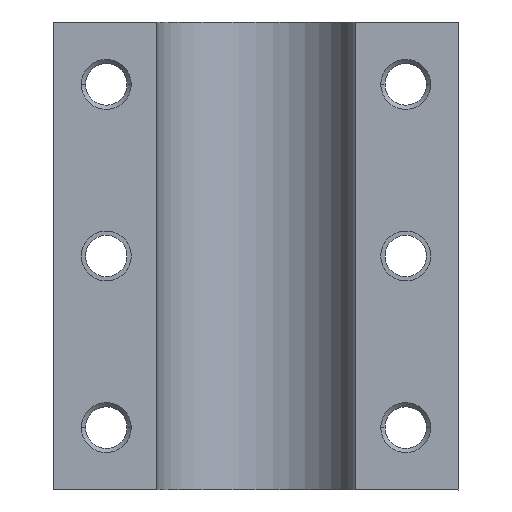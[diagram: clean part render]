
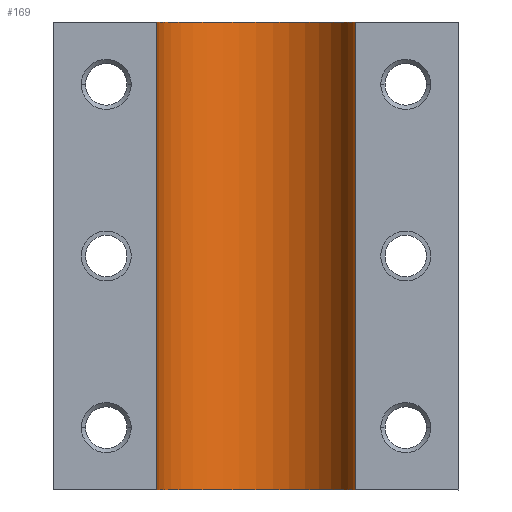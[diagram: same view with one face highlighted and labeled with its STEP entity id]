
A CAD part, left-side view. The second image highlights one B-rep face of the part: STEP entity #169.
In plain terms, the highlighted cylindrical face has radius 15.875 mm (diameter 31.75 mm), a partial arc.
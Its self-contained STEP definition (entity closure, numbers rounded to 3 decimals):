
#63=CYLINDRICAL_SURFACE('',#1556,15.875);
#169=ADVANCED_FACE('',(#231),#63,.F.);
#231=FACE_OUTER_BOUND('',#323,.F.);
#323=EDGE_LOOP('',(#440,#441,#442,#443));
#440=ORIENTED_EDGE('',*,*,#1240,.F.);
#441=ORIENTED_EDGE('',*,*,#1261,.F.);
#442=ORIENTED_EDGE('',*,*,#1239,.T.);
#443=ORIENTED_EDGE('',*,*,#1262,.F.);
#1099=LINE('',#2069,#1163);
#1100=LINE('',#2070,#1164);
#1163=VECTOR('',#1694,75.);
#1164=VECTOR('',#1695,75.);
#1239=EDGE_CURVE('',#1456,#1458,#1099,.T.);
#1240=EDGE_CURVE('',#1460,#1455,#1100,.T.);
#1261=EDGE_CURVE('',#1456,#1460,#1387,.T.);
#1262=EDGE_CURVE('',#1455,#1458,#1388,.T.);
#1387=CIRCLE('',#1547,15.875);
#1388=CIRCLE('',#1548,15.875);
#1455=VERTEX_POINT('',#2037);
#1456=VERTEX_POINT('',#2038);
#1458=VERTEX_POINT('',#2040);
#1460=VERTEX_POINT('',#2042);
#1547=AXIS2_PLACEMENT_3D('',#2091,#1728,#1729);
#1548=AXIS2_PLACEMENT_3D('',#2092,#1730,#1731);
#1556=AXIS2_PLACEMENT_3D('',#2116,#1762,#1763);
#1694=DIRECTION('',(0.,0.,1.));
#1695=DIRECTION('',(0.,0.,1.));
#1728=DIRECTION('',(0.,0.,-1.));
#1729=DIRECTION('',(0.031,1.,0.));
#1730=DIRECTION('',(0.,0.,1.));
#1731=DIRECTION('',(0.031,-1.,0.));
#1762=DIRECTION('',(0.,0.,-1.));
#1763=DIRECTION('',(0.,1.,0.));
#2037=CARTESIAN_POINT('',(1123.375,403.385,1266.874));
#2038=CARTESIAN_POINT('',(1123.375,435.119,1191.874));
#2040=CARTESIAN_POINT('',(1123.375,435.119,1266.874));
#2042=CARTESIAN_POINT('',(1123.375,403.385,1191.874));
#2069=CARTESIAN_POINT('',(1123.375,435.119,1191.874));
#2070=CARTESIAN_POINT('',(1123.375,403.385,1191.874));
#2091=CARTESIAN_POINT('',(1122.875,419.252,1191.874));
#2092=CARTESIAN_POINT('',(1122.875,419.252,1266.874));
#2116=CARTESIAN_POINT('',(1122.875,419.252,1186.874));
